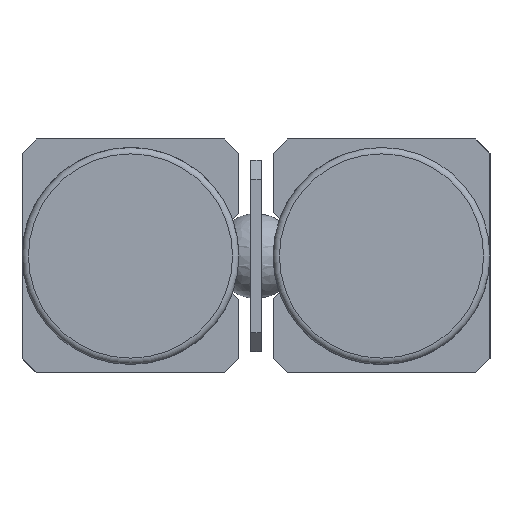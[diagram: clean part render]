
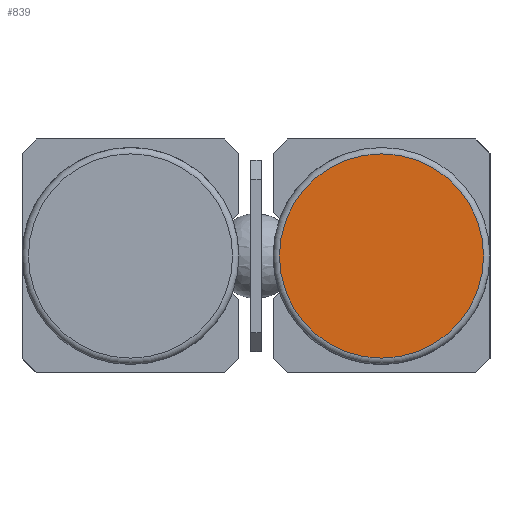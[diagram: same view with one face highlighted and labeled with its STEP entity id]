
A CAD part, left-side view. The second image highlights one B-rep face of the part: STEP entity #839.
In plain terms, the highlighted planar face has unit normal (-1, 0, 0).
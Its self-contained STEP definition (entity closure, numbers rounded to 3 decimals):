
#81=CIRCLE('',#941,4.8);
#214=ORIENTED_EDGE('',*,*,#360,.T.);
#360=EDGE_CURVE('',#445,#445,#81,.T.);
#445=VERTEX_POINT('',#1383);
#647=EDGE_LOOP('',(#214));
#736=FACE_BOUND('',#647,.T.);
#799=PLANE('',#942);
#839=ADVANCED_FACE('',(#736),#799,.F.);
#941=AXIS2_PLACEMENT_3D('',#1382,#1126,#1127);
#942=AXIS2_PLACEMENT_3D('',#1384,#1128,#1129);
#1126=DIRECTION('',(-1.,0.,0.));
#1127=DIRECTION('',(0.,0.,1.));
#1128=DIRECTION('',(1.,0.,0.));
#1129=DIRECTION('',(0.,0.,-1.));
#1382=CARTESIAN_POINT('',(0.,-5.9,0.));
#1383=CARTESIAN_POINT('',(0.,-5.9,4.8));
#1384=CARTESIAN_POINT('',(0.,-10.7,0.));
